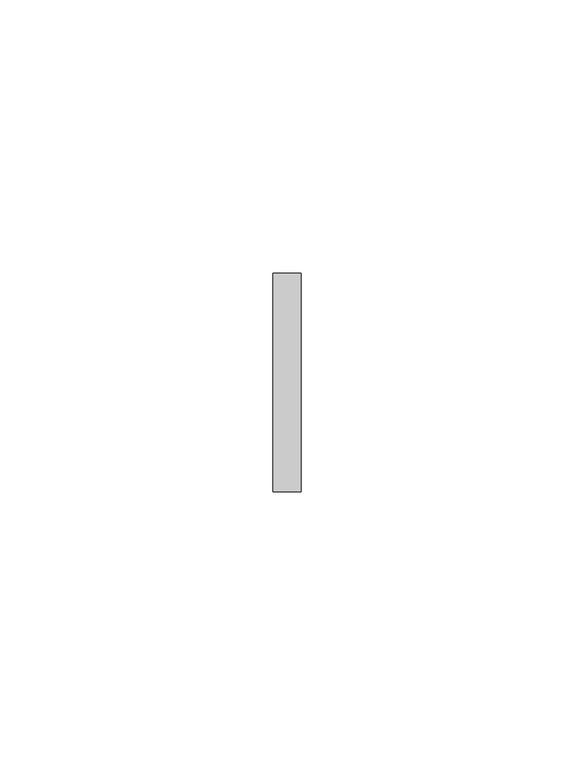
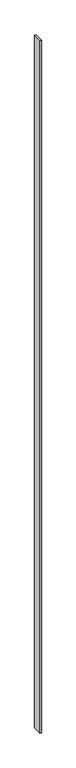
"""IFC4 building model written with IfcOpenShell, lengths in millimetres: plate geometry, Vitré."""

from ifc_helpers import new_model, si_unit, origin, origin_with_axes, place, context, project, spatial, polyline, outline, extrude, source, transform, mapped, element, save


def plate_1e81840b(model_context):
    return source(origin(), model_context, "Body", "SweptSolid", [
        extrude(outline(polyline([(-2.5624998, -20.0), (-2.5624998, 20.0), (2.5624998, 20.0), (2.5624998, -20.0), (-2.5624998, -20.0)])), origin_with_axes(), (0.0, 0.0, 1.0), 3130.0),
    ])


if __name__ == "__main__":
    model = new_model("IFC4")
    model_context = context("Model", 3, world=origin())
    ifc_project = project(units=[si_unit("LENGTHUNIT", "METRE", prefix="MILLI")], contexts=[model_context])
    site = spatial("IfcSite", under=ifc_project)
    building = spatial("IfcBuilding", under=site)
    placement = place(None, origin())
    plate_shape = plate_1e81840b(model_context)
    element("IfcPlate", 1, ObjectType="Vitré", at=placement, inside=building, context=model_context, shape_type="MappedRepresentation", body=[
        mapped(plate_shape, transform((0.0, 0.0, 0.0), x_axis=(1.0, 0.0, 0.0), y_axis=(0.0, 1.0, 0.0), z_axis=(0.0, 0.0, 1.0))),
    ])
    save(model, "model.ifc")
